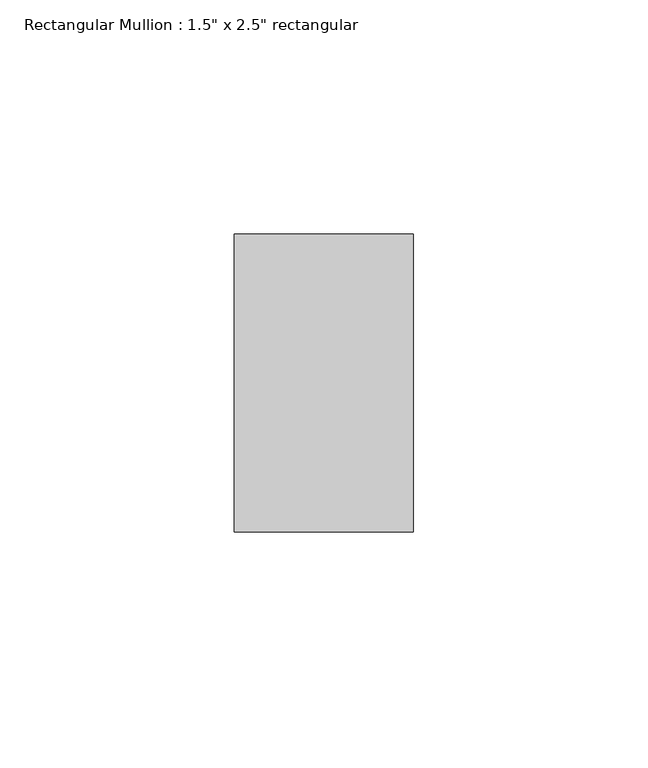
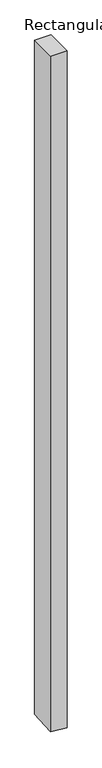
"""IFC4 building model written with IfcOpenShell, lengths in millimetres: member geometry."""

from ifc_helpers import new_model, si_unit, origin, place, context, project, spatial, faceted_brep, source, transform, mapped, element, save


def member_10256ac6(model_context):
    return source(origin(), model_context, "Body", "Brep", [
        faceted_brep([(0.0, 31.75, 0.0), (-38.1, 31.75, 0.0), (-38.1, -31.75, 0.0), (0.0, -31.75, 0.0), (0.0, 31.75, -1648.5616283), (-38.1, 31.75, -1645.7122086), (-38.1, -31.75, -1650.4858768), (0.0, -31.75, -1653.3352965)], [[[0, 1, 2, 3]], [[1, 0, 4, 5]], [[2, 1, 5, 6]], [[3, 2, 6, 7]], [[0, 3, 7, 4]], [[4, 7, 6, 5]]]),
    ])


if __name__ == "__main__":
    model = new_model("IFC4")
    model_context = context("Model", 3, world=origin())
    ifc_project = project(units=[si_unit("LENGTHUNIT", "METRE", prefix="MILLI")], contexts=[model_context])
    site = spatial("IfcSite", under=ifc_project)
    building = spatial("IfcBuilding", under=site)
    placement = place(None, origin())
    member_shape = member_10256ac6(model_context)
    element("IfcMember", 1, ObjectType="Rectangular Mullion : 1.5\" x 2.5\" rectangular", at=placement, inside=building, context=model_context, shape_type="MappedRepresentation", body=[
        mapped(member_shape, transform((0.0, 0.0, 0.0), x_axis=(1.0, 0.0, 0.0), y_axis=(0.0, 1.0, 0.0), z_axis=(0.0, 0.0, 1.0))),
    ])
    save(model, "model.ifc")
